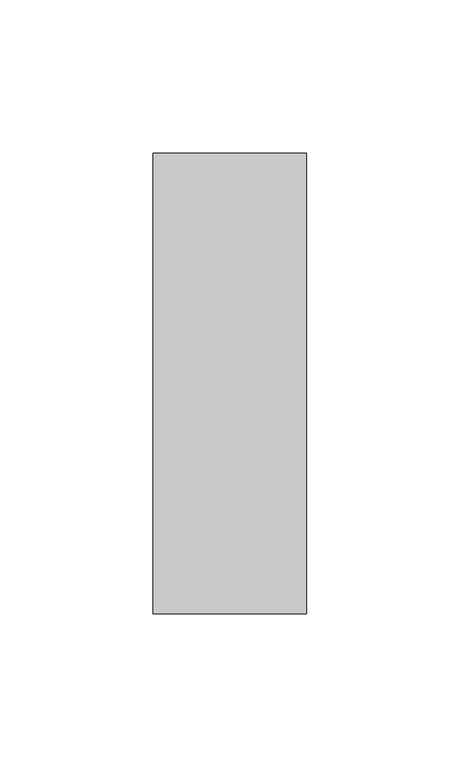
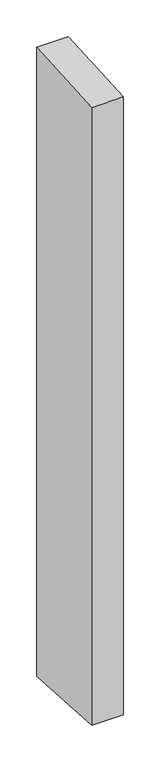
"""IFC4 building model written with IfcOpenShell, lengths in millimetres: member geometry, Прямоугольный импост : 50 x 150 мм."""

from ifc_helpers import new_model, si_unit, origin, place, context, project, spatial, faceted_brep, source, transform, mapped, element, save


def member_68a75b39(model_context):
    return source(origin(), model_context, "Body", "Brep", [
        faceted_brep([(-25.0, 75.0, 4.2740333), (25.0, 75.0, 4.8988905), (25.0, 75.0, -1045.1449313), (-25.0, 75.0, -1044.5387164), (-25.0, -75.0, -4.8988905), (-25.0, -75.0, -1034.6076428), (25.0, -75.0, -4.2740333), (25.0, -75.0, -1035.2138577)], [[[0, 1, 2, 3]], [[4, 0, 3, 5]], [[6, 4, 5, 7]], [[1, 6, 7, 2]], [[1, 0, 4, 6]], [[2, 7, 5, 3]]]),
    ])


if __name__ == "__main__":
    model = new_model("IFC4")
    model_context = context("Model", 3, world=origin())
    ifc_project = project(units=[si_unit("LENGTHUNIT", "METRE", prefix="MILLI")], contexts=[model_context])
    site = spatial("IfcSite", under=ifc_project)
    building = spatial("IfcBuilding", under=site)
    placement = place(None, origin())
    member_shape = member_68a75b39(model_context)
    element("IfcMember", 1, ObjectType="Прямоугольный импост : 50 x 150 мм", at=placement, inside=building, context=model_context, shape_type="MappedRepresentation", body=[
        mapped(member_shape, transform((0.0, 0.0, 0.0), x_axis=(1.0, 0.0, 0.0), y_axis=(0.0, 1.0, 0.0), z_axis=(0.0, 0.0, 1.0))),
    ])
    save(model, "model.ifc")
